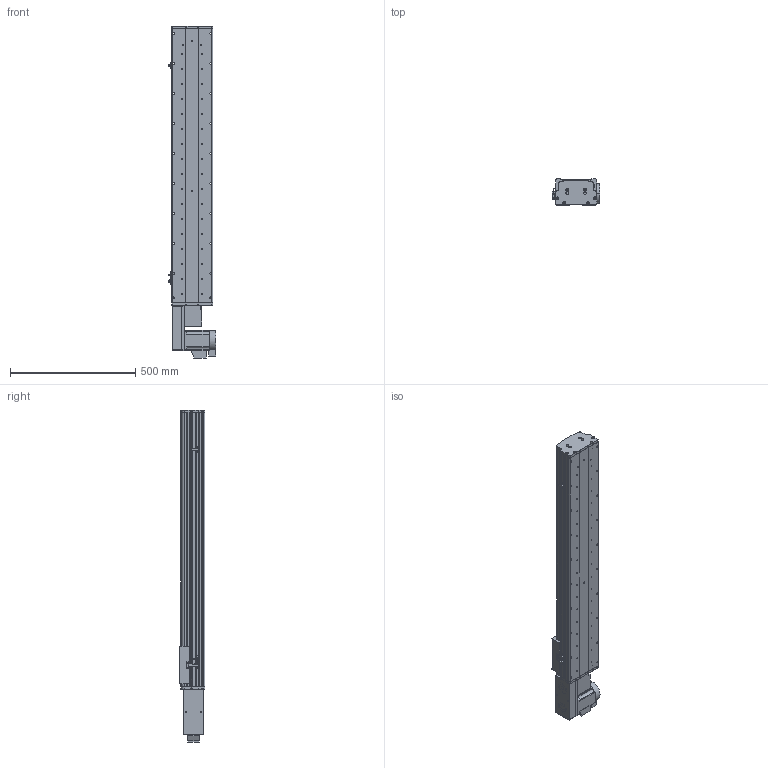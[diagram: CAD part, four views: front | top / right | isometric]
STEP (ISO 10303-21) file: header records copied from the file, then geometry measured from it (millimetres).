
FILE_DESCRIPTION (( 'STEP AP214' ), '1' );
FILE_NAME ('KSD165B-S850-MLB-CM .STEP', '2017-10-16T06:12:54', ( '微软用户' ), ( '微软中国' ), 'SwSTEP 2.0', 'SolidWorks 2014', '' );
FILE_SCHEMA (( 'AUTOMOTIVE_DESIGN' ));
Length unit declared in the file: millimetre
Products named in the file (17): KSD165模组-后端板1-同步带; KSD165模组-同步带滑动座-最新版; KSD165B-S850-MLB-CM ; HTPA26S5M250-A-H8 750W萇儂蚚; HTPA26S5M250-A-H8 400W萇儂蚚 ; 130宽模组马达安装板连板左右折同步带; 130宽模组保护罩上下左右折-同步带; 165宽马达安装板同步带左-改; KSD165模组-同步带防尘盖1-850行程-最新版; KSD165模组同步带底板-850行程-最新; 拸秶雄ん750W侜督萇儂; U倰嫖萇假蚾璃; U倰嫖萇EEㄜSX672; 覜茼え68遵圉猾敕; KSD165模组-同步带-防撞垫2; KSD165模组同步带-防撞垫1; KSD165耀郪-ヶ傷啣1-肮祭湍
Assembly tree (20 placements, depth 2):
  KSD165B-S850-MLB-CM 
    KSD165模组-同步带滑动座-最新版
    KSD165模组-后端板1-同步带
    KSD165耀郪-ヶ傷啣1-肮祭湍
    KSD165模组同步带-防撞垫1
    KSD165模组-同步带-防撞垫2
    覜茼え68遵圉猾敕
    U倰嫖萇EEㄜSX672  x3
    U倰嫖萇假蚾璃  x3
    拸秶雄ん750W侜督萇儂
    KSD165模组同步带底板-850行程-最新
    KSD165模组-同步带防尘盖1-850行程-最新版
    165宽马达安装板同步带左-改
    130宽模组保护罩上下左右折-同步带
    130宽模组马达安装板连板左右折同步带
    HTPA26S5M250-A-H8 400W萇儂蚚 
    HTPA26S5M250-A-H8 750W萇儂蚚
Bounding box: 191.2 x 104 x 1328 mm (x, y, z)
Volume: 7237749.4 mm3; surface area: 1683181.8 mm2
Topology: 21 solids, 22 shells, 1957 faces, 5520 edges, 3604 vertices
Faces by surface type: cylinder 1257, plane 588, cone 112
Entity records: 63432 total; most frequent: CARTESIAN_POINT 13014, DIRECTION 10432, ORIENTED_EDGE 9700, EDGE_CURVE 4850, AXIS2_PLACEMENT_3D 4092, VERTEX_POINT 3196, CIRCLE 2332, VECTOR 2248
